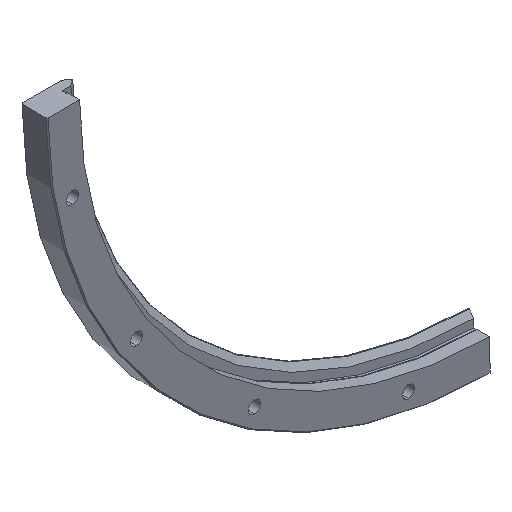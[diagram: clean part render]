
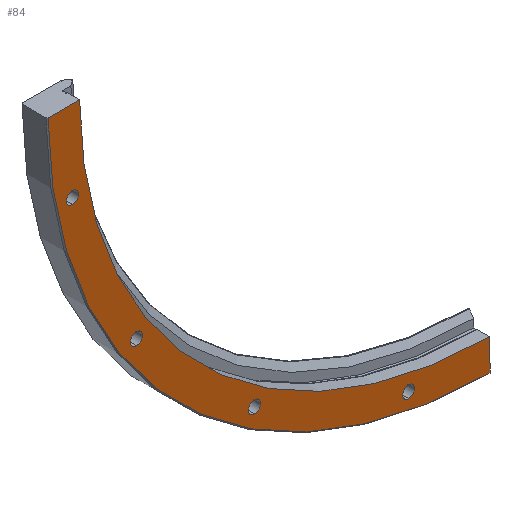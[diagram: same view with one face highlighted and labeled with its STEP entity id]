
A CAD part, isometric view. The second image highlights one B-rep face of the part: STEP entity #84.
In plain terms, the highlighted planar face has unit normal (0, -1, 0).
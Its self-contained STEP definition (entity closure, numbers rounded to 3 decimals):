
#84=ADVANCED_FACE('',(#129,#130,#131,#132,#133),#134,.T.);
#129=FACE_OUTER_BOUND('',#211,.T.);
#130=FACE_BOUND('',#212,.T.);
#131=FACE_BOUND('',#213,.T.);
#132=FACE_BOUND('',#214,.T.);
#133=FACE_BOUND('',#215,.T.);
#134=PLANE('',#216);
#211=EDGE_LOOP('',(#338,#339,#340,#341));
#212=EDGE_LOOP('',(#342,#343));
#213=EDGE_LOOP('',(#344,#345));
#214=EDGE_LOOP('',(#346,#347));
#215=EDGE_LOOP('',(#348,#349));
#216=AXIS2_PLACEMENT_3D('',#350,#351,#352);
#338=ORIENTED_EDGE('',*,*,#590,.F.);
#339=ORIENTED_EDGE('',*,*,#591,.T.);
#340=ORIENTED_EDGE('',*,*,#592,.F.);
#341=ORIENTED_EDGE('',*,*,#593,.F.);
#342=ORIENTED_EDGE('',*,*,#594,.T.);
#343=ORIENTED_EDGE('',*,*,#578,.T.);
#344=ORIENTED_EDGE('',*,*,#595,.T.);
#345=ORIENTED_EDGE('',*,*,#586,.T.);
#346=ORIENTED_EDGE('',*,*,#596,.T.);
#347=ORIENTED_EDGE('',*,*,#570,.T.);
#348=ORIENTED_EDGE('',*,*,#597,.T.);
#349=ORIENTED_EDGE('',*,*,#562,.T.);
#350=CARTESIAN_POINT('',(-409.0,-19.325,0.0));
#351=DIRECTION('',(0.0,-1.0,0.0));
#352=DIRECTION('',(0.0,0.0,-1.0));
#562=EDGE_CURVE('',#657,#658,#659,.T.);
#570=EDGE_CURVE('',#673,#674,#675,.T.);
#578=EDGE_CURVE('',#689,#690,#691,.T.);
#586=EDGE_CURVE('',#705,#706,#707,.T.);
#590=EDGE_CURVE('',#713,#714,#715,.T.);
#591=EDGE_CURVE('',#713,#716,#717,.T.);
#592=EDGE_CURVE('',#718,#716,#719,.T.);
#593=EDGE_CURVE('',#714,#718,#720,.T.);
#594=EDGE_CURVE('',#690,#689,#721,.T.);
#595=EDGE_CURVE('',#706,#705,#722,.T.);
#596=EDGE_CURVE('',#674,#673,#723,.T.);
#597=EDGE_CURVE('',#658,#657,#724,.T.);
#657=VERTEX_POINT('',#814);
#658=VERTEX_POINT('',#815);
#659=CIRCLE('',#816,5.5);
#673=VERTEX_POINT('',#834);
#674=VERTEX_POINT('',#835);
#675=CIRCLE('',#836,5.5);
#689=VERTEX_POINT('',#854);
#690=VERTEX_POINT('',#855);
#691=CIRCLE('',#856,5.5);
#705=VERTEX_POINT('',#874);
#706=VERTEX_POINT('',#875);
#707=CIRCLE('',#876,5.5);
#713=VERTEX_POINT('',#884);
#714=VERTEX_POINT('',#885);
#715=LINE('',#886,#887);
#716=VERTEX_POINT('',#888);
#717=CIRCLE('',#889,380.0);
#718=VERTEX_POINT('',#890);
#719=LINE('',#891,#892);
#720=CIRCLE('',#893,409.0);
#721=CIRCLE('',#894,5.5);
#722=CIRCLE('',#895,5.5);
#723=CIRCLE('',#896,5.5);
#724=CIRCLE('',#897,5.5);
#814=CARTESIAN_POINT('',(-76.866,-19.325,-391.929));
#815=CARTESIAN_POINT('',(-76.866,-19.325,-380.929));
#816=AXIS2_PLACEMENT_3D('',#1019,#1020,#1021);
#834=CARTESIAN_POINT('',(-218.895,-19.325,-333.099));
#835=CARTESIAN_POINT('',(-218.895,-19.325,-322.099));
#836=AXIS2_PLACEMENT_3D('',#1035,#1036,#1037);
#854=CARTESIAN_POINT('',(-327.599,-19.325,-224.395));
#855=CARTESIAN_POINT('',(-327.599,-19.325,-213.395));
#856=AXIS2_PLACEMENT_3D('',#1051,#1052,#1053);
#874=CARTESIAN_POINT('',(-386.429,-19.325,-82.366));
#875=CARTESIAN_POINT('',(-386.429,-19.325,-71.366));
#876=AXIS2_PLACEMENT_3D('',#1067,#1068,#1069);
#884=CARTESIAN_POINT('',(-2.,-19.325,-379.995));
#885=CARTESIAN_POINT('',(-2.,-19.325,-408.995));
#886=CARTESIAN_POINT('',(-2.,-19.325,-999.998));
#887=VECTOR('',#1075,1000.0);
#888=CARTESIAN_POINT('',(-379.995,-19.325,-2.));
#889=AXIS2_PLACEMENT_3D('',#1076,#1077,#1078);
#890=CARTESIAN_POINT('',(-408.995,-19.325,-2.));
#891=CARTESIAN_POINT('',(-999.998,-19.325,-2.));
#892=VECTOR('',#1079,1000.0);
#893=AXIS2_PLACEMENT_3D('',#1080,#1081,#1082);
#894=AXIS2_PLACEMENT_3D('',#1083,#1084,#1085);
#895=AXIS2_PLACEMENT_3D('',#1086,#1087,#1088);
#896=AXIS2_PLACEMENT_3D('',#1089,#1090,#1091);
#897=AXIS2_PLACEMENT_3D('',#1092,#1093,#1094);
#1019=CARTESIAN_POINT('',(-76.866,-19.325,-386.429));
#1020=DIRECTION('',(-0.0,1.0,0.0));
#1021=DIRECTION('',(0.0,0.0,1.0));
#1035=CARTESIAN_POINT('',(-218.895,-19.325,-327.599));
#1036=DIRECTION('',(-0.0,1.0,0.0));
#1037=DIRECTION('',(0.0,0.0,1.0));
#1051=CARTESIAN_POINT('',(-327.599,-19.325,-218.895));
#1052=DIRECTION('',(-0.0,1.0,0.0));
#1053=DIRECTION('',(0.0,0.0,1.0));
#1067=CARTESIAN_POINT('',(-386.429,-19.325,-76.866));
#1068=DIRECTION('',(-0.0,1.0,0.0));
#1069=DIRECTION('',(0.0,0.0,1.0));
#1075=DIRECTION('',(0.,-0.0,-1.0));
#1076=CARTESIAN_POINT('',(0.0,-19.325,0.0));
#1077=DIRECTION('',(-0.0,1.0,0.0));
#1078=DIRECTION('',(0.0,0.0,1.0));
#1079=DIRECTION('',(1.0,0.0,0.0));
#1080=CARTESIAN_POINT('',(0.0,-19.325,0.0));
#1081=DIRECTION('',(-0.0,1.0,0.0));
#1082=DIRECTION('',(0.0,0.0,1.0));
#1083=CARTESIAN_POINT('',(-327.599,-19.325,-218.895));
#1084=DIRECTION('',(-0.0,1.0,0.0));
#1085=DIRECTION('',(0.0,0.0,1.0));
#1086=CARTESIAN_POINT('',(-386.429,-19.325,-76.866));
#1087=DIRECTION('',(-0.0,1.0,0.0));
#1088=DIRECTION('',(0.0,0.0,1.0));
#1089=CARTESIAN_POINT('',(-218.895,-19.325,-327.599));
#1090=DIRECTION('',(-0.0,1.0,0.0));
#1091=DIRECTION('',(0.0,0.0,1.0));
#1092=CARTESIAN_POINT('',(-76.866,-19.325,-386.429));
#1093=DIRECTION('',(-0.0,1.0,0.0));
#1094=DIRECTION('',(0.0,0.0,1.0));
